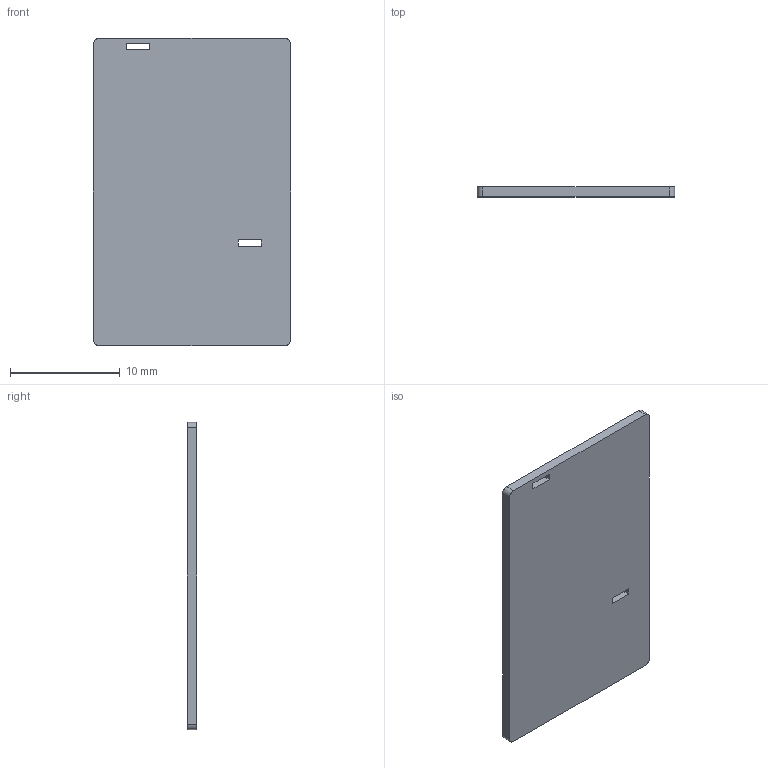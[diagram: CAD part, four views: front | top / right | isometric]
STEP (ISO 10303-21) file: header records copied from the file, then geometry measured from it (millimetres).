
FILE_DESCRIPTION((''),'2;1');
FILE_NAME('GTA02-MPB02_PRT','2008-06-30T',('GRA'),(''),'PRO/ENGINEER BY PARAMETRIC TECHNOLOGY CORPORATION, 2006170','PRO/ENGINEER BY PARAMETRIC TECHNOLOGY CORPORATION, 2006170','');
FILE_SCHEMA(('CONFIG_CONTROL_DESIGN'));
Length unit declared in the file: millimetre
Products named in the file (1): GTA02-MPB02_PRT
Bounding box: 18 x 0.9 x 28 mm (x, y, z)
Volume: 451.1 mm3; surface area: 1094.3 mm2
Topology: 1 solids, 1 shells, 18 faces, 48 edges, 32 vertices
Faces by surface type: plane 14, cylinder 4
Entity records: 606 total; most frequent: CARTESIAN_POINT 98, ORIENTED_EDGE 96, DIRECTION 92, EDGE_CURVE 48, VECTOR 40, LINE 40, VERTEX_POINT 32, AXIS2_PLACEMENT_3D 26
